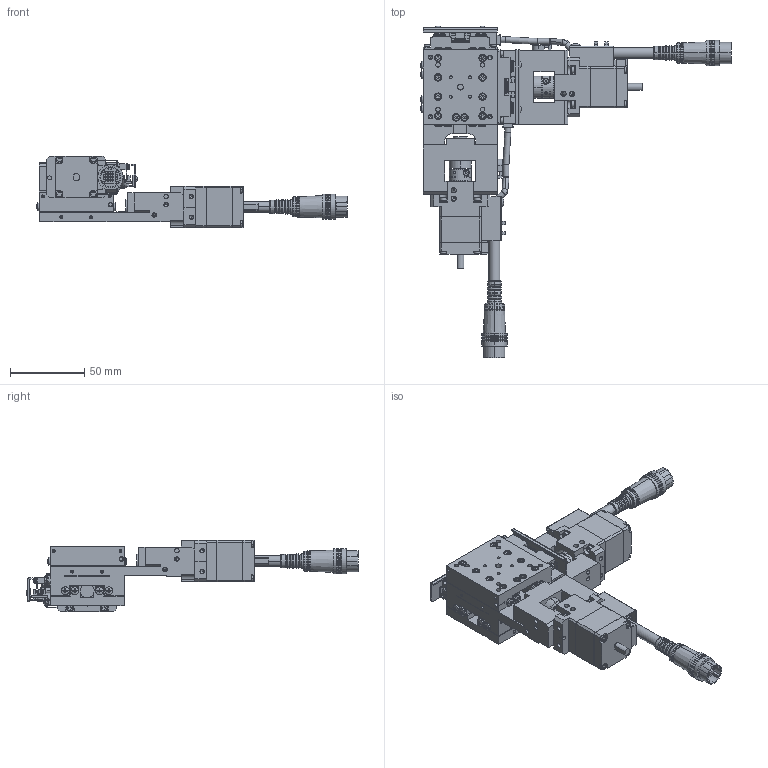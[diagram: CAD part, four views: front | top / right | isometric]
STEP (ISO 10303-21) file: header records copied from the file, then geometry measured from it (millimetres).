
FILE_DESCRIPTION (( 'STEP AP203' ), '1' );
FILE_NAME ('YA05A-R102.STEP', '2019-02-26T08:45:20', ( '' ), ( '' ), 'SwSTEP 2.0', 'SolidWorks 2018', '' );
FILE_SCHEMA (( 'CONFIG_CONTROL_DESIGN' ));
Length unit declared in the file: millimetre
Products named in the file (10): base-Part-1; base-Part-3; second table-Part-1; base; second table-Part-3; base-Part-2; table; second table-Part-2; YA05A-R102; second table
Assembly tree (9 placements, depth 3):
  YA05A-R102
    second table
      second table-Part-1
      second table-Part-2
      second table-Part-3
    base
      base-Part-1
      base-Part-2
      base-Part-3
    table
Bounding box: 209.09 x 223.68 x 48 mm (x, y, z)
Volume: 243845.4 mm3; surface area: 109305.5 mm2
Topology: 7 solids, 7 shells, 4407 faces, 10896 edges, 6638 vertices
Faces by surface type: plane 2609, cylinder 1010, cone 508, torus 212, sphere 68
Entity records: 130994 total; most frequent: CARTESIAN_POINT 23629, DIRECTION 23254, ORIENTED_EDGE 21416, EDGE_CURVE 10708, AXIS2_PLACEMENT_3D 8343, VERTEX_POINT 6626, LINE 6568, VECTOR 6568
